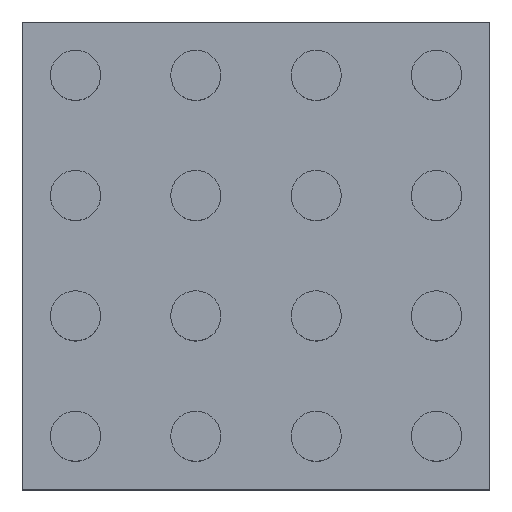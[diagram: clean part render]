
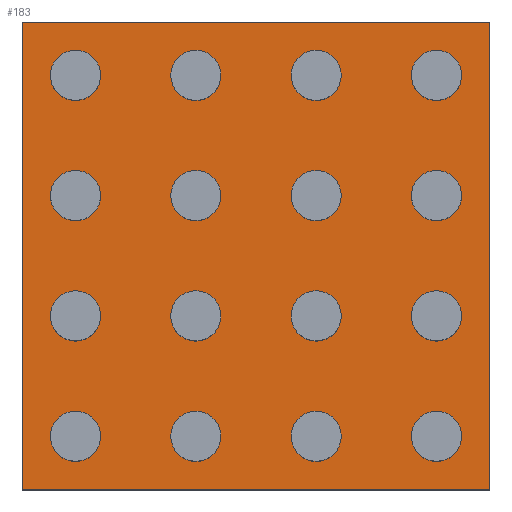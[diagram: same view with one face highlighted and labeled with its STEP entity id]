
A CAD part, top view. The second image highlights one B-rep face of the part: STEP entity #183.
In plain terms, the highlighted planar face has unit normal (0, 0, 1).
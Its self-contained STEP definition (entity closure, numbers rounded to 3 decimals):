
#100=PLANE('',#593);
#138=LINE('',#845,#150);
#142=LINE('',#854,#154);
#145=LINE('',#860,#157);
#148=LINE('',#866,#160);
#150=VECTOR('',#708,1.);
#154=VECTOR('',#714,1.);
#157=VECTOR('',#719,1.);
#160=VECTOR('',#724,1.);
#183=ADVANCED_FACE('',(#248,#249,#250,#251,#252,#253,#254,#255,#256,#257,
#258,#259,#260,#261,#262,#263,#264),#100,.T.);
#248=FACE_BOUND('',#302,.T.);
#249=FACE_BOUND('',#303,.T.);
#250=FACE_BOUND('',#304,.T.);
#251=FACE_BOUND('',#305,.T.);
#252=FACE_BOUND('',#306,.T.);
#253=FACE_BOUND('',#307,.T.);
#254=FACE_BOUND('',#308,.T.);
#255=FACE_BOUND('',#309,.T.);
#256=FACE_BOUND('',#310,.T.);
#257=FACE_BOUND('',#311,.T.);
#258=FACE_BOUND('',#312,.T.);
#259=FACE_BOUND('',#313,.T.);
#260=FACE_BOUND('',#314,.T.);
#261=FACE_BOUND('',#315,.T.);
#262=FACE_BOUND('',#316,.T.);
#263=FACE_BOUND('',#317,.T.);
#264=FACE_BOUND('',#318,.T.);
#302=EDGE_LOOP('',(#387));
#303=EDGE_LOOP('',(#388));
#304=EDGE_LOOP('',(#389));
#305=EDGE_LOOP('',(#390));
#306=EDGE_LOOP('',(#391));
#307=EDGE_LOOP('',(#392));
#308=EDGE_LOOP('',(#393));
#309=EDGE_LOOP('',(#394));
#310=EDGE_LOOP('',(#395));
#311=EDGE_LOOP('',(#396));
#312=EDGE_LOOP('',(#397));
#313=EDGE_LOOP('',(#398));
#314=EDGE_LOOP('',(#399));
#315=EDGE_LOOP('',(#400));
#316=EDGE_LOOP('',(#401));
#317=EDGE_LOOP('',(#402));
#318=EDGE_LOOP('',(#403,#404,#405,#406));
#387=ORIENTED_EDGE('',*,*,#493,.F.);
#388=ORIENTED_EDGE('',*,*,#491,.F.);
#389=ORIENTED_EDGE('',*,*,#489,.F.);
#390=ORIENTED_EDGE('',*,*,#487,.F.);
#391=ORIENTED_EDGE('',*,*,#485,.F.);
#392=ORIENTED_EDGE('',*,*,#483,.F.);
#393=ORIENTED_EDGE('',*,*,#481,.F.);
#394=ORIENTED_EDGE('',*,*,#479,.F.);
#395=ORIENTED_EDGE('',*,*,#477,.F.);
#396=ORIENTED_EDGE('',*,*,#475,.F.);
#397=ORIENTED_EDGE('',*,*,#473,.F.);
#398=ORIENTED_EDGE('',*,*,#471,.F.);
#399=ORIENTED_EDGE('',*,*,#469,.F.);
#400=ORIENTED_EDGE('',*,*,#467,.F.);
#401=ORIENTED_EDGE('',*,*,#465,.F.);
#402=ORIENTED_EDGE('',*,*,#463,.F.);
#403=ORIENTED_EDGE('',*,*,#495,.T.);
#404=ORIENTED_EDGE('',*,*,#499,.T.);
#405=ORIENTED_EDGE('',*,*,#502,.T.);
#406=ORIENTED_EDGE('',*,*,#505,.T.);
#423=VERTEX_POINT('',#766);
#425=VERTEX_POINT('',#771);
#427=VERTEX_POINT('',#776);
#429=VERTEX_POINT('',#781);
#431=VERTEX_POINT('',#786);
#433=VERTEX_POINT('',#791);
#435=VERTEX_POINT('',#796);
#437=VERTEX_POINT('',#801);
#439=VERTEX_POINT('',#806);
#441=VERTEX_POINT('',#811);
#443=VERTEX_POINT('',#816);
#445=VERTEX_POINT('',#821);
#447=VERTEX_POINT('',#826);
#449=VERTEX_POINT('',#831);
#451=VERTEX_POINT('',#836);
#453=VERTEX_POINT('',#841);
#455=VERTEX_POINT('',#846);
#456=VERTEX_POINT('',#847);
#459=VERTEX_POINT('',#855);
#461=VERTEX_POINT('',#861);
#463=EDGE_CURVE('',#423,#423,#507,.T.);
#465=EDGE_CURVE('',#425,#425,#509,.T.);
#467=EDGE_CURVE('',#427,#427,#511,.T.);
#469=EDGE_CURVE('',#429,#429,#513,.T.);
#471=EDGE_CURVE('',#431,#431,#515,.T.);
#473=EDGE_CURVE('',#433,#433,#517,.T.);
#475=EDGE_CURVE('',#435,#435,#519,.T.);
#477=EDGE_CURVE('',#437,#437,#521,.T.);
#479=EDGE_CURVE('',#439,#439,#523,.T.);
#481=EDGE_CURVE('',#441,#441,#525,.T.);
#483=EDGE_CURVE('',#443,#443,#527,.T.);
#485=EDGE_CURVE('',#445,#445,#529,.T.);
#487=EDGE_CURVE('',#447,#447,#531,.T.);
#489=EDGE_CURVE('',#449,#449,#533,.T.);
#491=EDGE_CURVE('',#451,#451,#535,.T.);
#493=EDGE_CURVE('',#453,#453,#537,.T.);
#495=EDGE_CURVE('',#455,#456,#138,.T.);
#499=EDGE_CURVE('',#456,#459,#142,.T.);
#502=EDGE_CURVE('',#459,#461,#145,.T.);
#505=EDGE_CURVE('',#461,#455,#148,.T.);
#507=CIRCLE('',#540,0.75);
#509=CIRCLE('',#543,0.75);
#511=CIRCLE('',#546,0.75);
#513=CIRCLE('',#549,0.75);
#515=CIRCLE('',#552,0.75);
#517=CIRCLE('',#555,0.75);
#519=CIRCLE('',#558,0.75);
#521=CIRCLE('',#561,0.75);
#523=CIRCLE('',#564,0.75);
#525=CIRCLE('',#567,0.75);
#527=CIRCLE('',#570,0.75);
#529=CIRCLE('',#573,0.75);
#531=CIRCLE('',#576,0.75);
#533=CIRCLE('',#579,0.75);
#535=CIRCLE('',#582,0.75);
#537=CIRCLE('',#585,0.75);
#540=AXIS2_PLACEMENT_3D('',#765,#612,#613);
#543=AXIS2_PLACEMENT_3D('',#770,#618,#619);
#546=AXIS2_PLACEMENT_3D('',#775,#624,#625);
#549=AXIS2_PLACEMENT_3D('',#780,#630,#631);
#552=AXIS2_PLACEMENT_3D('',#785,#636,#637);
#555=AXIS2_PLACEMENT_3D('',#790,#642,#643);
#558=AXIS2_PLACEMENT_3D('',#795,#648,#649);
#561=AXIS2_PLACEMENT_3D('',#800,#654,#655);
#564=AXIS2_PLACEMENT_3D('',#805,#660,#661);
#567=AXIS2_PLACEMENT_3D('',#810,#666,#667);
#570=AXIS2_PLACEMENT_3D('',#815,#672,#673);
#573=AXIS2_PLACEMENT_3D('',#820,#678,#679);
#576=AXIS2_PLACEMENT_3D('',#825,#684,#685);
#579=AXIS2_PLACEMENT_3D('',#830,#690,#691);
#582=AXIS2_PLACEMENT_3D('',#835,#696,#697);
#585=AXIS2_PLACEMENT_3D('',#840,#702,#703);
#593=AXIS2_PLACEMENT_3D('',#870,#730,#731);
#612=DIRECTION('',(0.,0.,1.));
#613=DIRECTION('',(1.,0.,0.));
#618=DIRECTION('',(0.,0.,1.));
#619=DIRECTION('',(1.,0.,0.));
#624=DIRECTION('',(0.,0.,1.));
#625=DIRECTION('',(1.,0.,0.));
#630=DIRECTION('',(0.,0.,1.));
#631=DIRECTION('',(1.,0.,0.));
#636=DIRECTION('',(0.,0.,1.));
#637=DIRECTION('',(1.,0.,0.));
#642=DIRECTION('',(0.,0.,1.));
#643=DIRECTION('',(1.,0.,0.));
#648=DIRECTION('',(0.,0.,1.));
#649=DIRECTION('',(1.,0.,0.));
#654=DIRECTION('',(0.,0.,1.));
#655=DIRECTION('',(1.,0.,0.));
#660=DIRECTION('',(0.,0.,1.));
#661=DIRECTION('',(1.,0.,0.));
#666=DIRECTION('',(0.,0.,1.));
#667=DIRECTION('',(1.,0.,0.));
#672=DIRECTION('',(0.,0.,1.));
#673=DIRECTION('',(1.,0.,0.));
#678=DIRECTION('',(0.,0.,1.));
#679=DIRECTION('',(1.,0.,0.));
#684=DIRECTION('',(0.,0.,1.));
#685=DIRECTION('',(1.,0.,0.));
#690=DIRECTION('',(0.,0.,1.));
#691=DIRECTION('',(1.,0.,0.));
#696=DIRECTION('',(0.,0.,1.));
#697=DIRECTION('',(1.,0.,0.));
#702=DIRECTION('',(0.,0.,1.));
#703=DIRECTION('',(1.,0.,0.));
#708=DIRECTION('',(0.,1.,0.));
#714=DIRECTION('',(-1.,0.,0.));
#719=DIRECTION('',(0.,-1.,0.));
#724=DIRECTION('',(1.,0.,0.));
#730=DIRECTION('',(0.,0.,1.));
#731=DIRECTION('',(1.,0.,0.));
#765=CARTESIAN_POINT('',(0.,10.8,0.));
#766=CARTESIAN_POINT('',(0.75,10.8,0.));
#770=CARTESIAN_POINT('',(0.,3.6,0.));
#771=CARTESIAN_POINT('',(0.75,3.6,0.));
#775=CARTESIAN_POINT('',(7.2,0.,0.));
#776=CARTESIAN_POINT('',(7.95,0.,0.));
#780=CARTESIAN_POINT('',(3.6,7.2,0.));
#781=CARTESIAN_POINT('',(4.35,7.2,0.));
#785=CARTESIAN_POINT('',(3.6,0.,0.));
#786=CARTESIAN_POINT('',(4.35,0.,0.));
#790=CARTESIAN_POINT('',(3.6,3.6,0.));
#791=CARTESIAN_POINT('',(4.35,3.6,0.));
#795=CARTESIAN_POINT('',(0.,7.2,0.));
#796=CARTESIAN_POINT('',(0.75,7.2,0.));
#800=CARTESIAN_POINT('',(7.2,3.6,0.));
#801=CARTESIAN_POINT('',(7.95,3.6,0.));
#805=CARTESIAN_POINT('',(0.,0.,0.));
#806=CARTESIAN_POINT('',(0.75,0.,0.));
#810=CARTESIAN_POINT('',(10.8,0.,0.));
#811=CARTESIAN_POINT('',(11.55,0.,0.));
#815=CARTESIAN_POINT('',(10.8,10.8,0.));
#816=CARTESIAN_POINT('',(11.55,10.8,0.));
#820=CARTESIAN_POINT('',(10.8,3.6,0.));
#821=CARTESIAN_POINT('',(11.55,3.6,0.));
#825=CARTESIAN_POINT('',(7.2,10.8,0.));
#826=CARTESIAN_POINT('',(7.95,10.8,0.));
#830=CARTESIAN_POINT('',(7.2,7.2,0.));
#831=CARTESIAN_POINT('',(7.95,7.2,0.));
#835=CARTESIAN_POINT('',(3.6,10.8,0.));
#836=CARTESIAN_POINT('',(4.35,10.8,0.));
#840=CARTESIAN_POINT('',(10.8,7.2,0.));
#841=CARTESIAN_POINT('',(11.55,7.2,0.));
#845=CARTESIAN_POINT('',(12.4,-1.6,0.));
#846=CARTESIAN_POINT('',(12.4,-1.6,0.));
#847=CARTESIAN_POINT('',(12.4,12.4,0.));
#854=CARTESIAN_POINT('',(12.4,12.4,0.));
#855=CARTESIAN_POINT('',(-1.6,12.4,0.));
#860=CARTESIAN_POINT('',(-1.6,12.4,0.));
#861=CARTESIAN_POINT('',(-1.6,-1.6,0.));
#866=CARTESIAN_POINT('',(-1.6,-1.6,0.));
#870=CARTESIAN_POINT('',(0.,0.,0.));
